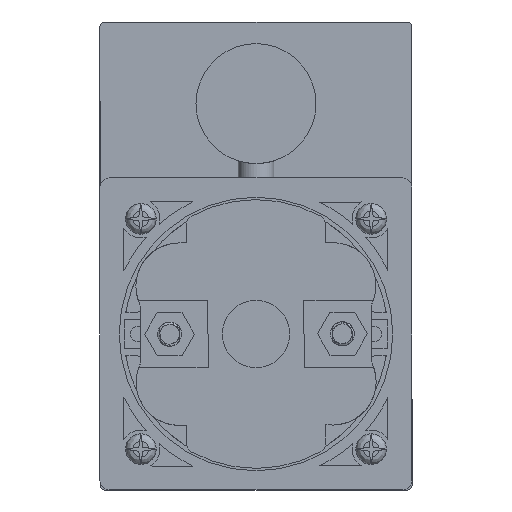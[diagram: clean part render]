
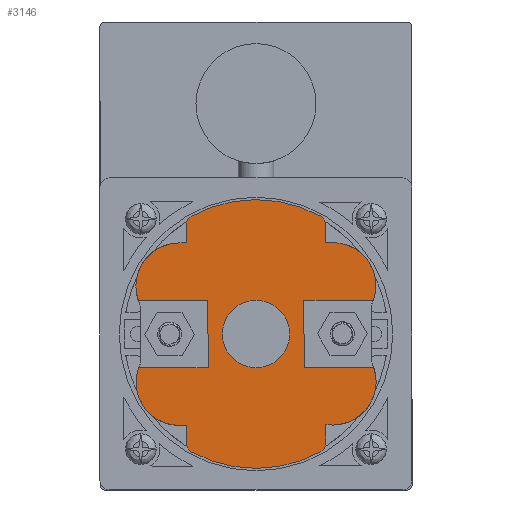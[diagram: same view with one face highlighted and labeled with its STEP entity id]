
A CAD part, front view. The second image highlights one B-rep face of the part: STEP entity #3146.
In plain terms, the highlighted planar face has unit normal (0, -1, 0).
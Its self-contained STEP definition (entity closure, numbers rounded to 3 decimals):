
#3146=ADVANCED_FACE('',(#6920,#6921),#3832,.F.);
#3832=PLANE('',#20545);
#4901=LINE('',#86773,#6233);
#4904=LINE('',#86779,#6236);
#4908=LINE('',#86791,#6240);
#4911=LINE('',#86799,#6243);
#4913=LINE('',#86803,#6245);
#4915=LINE('',#86807,#6247);
#4917=LINE('',#86823,#6249);
#4921=LINE('',#86844,#6253);
#4923=LINE('',#86861,#6255);
#4925=LINE('',#86865,#6257);
#5014=LINE('',#87119,#6346);
#5019=LINE('',#87131,#6351);
#5054=LINE('',#87245,#6386);
#5058=LINE('',#87267,#6390);
#6233=VECTOR('',#24204,1.);
#6236=VECTOR('',#24209,1.);
#6240=VECTOR('',#24221,1.);
#6243=VECTOR('',#24230,1.);
#6245=VECTOR('',#24234,1.);
#6247=VECTOR('',#24238,1.);
#6249=VECTOR('',#24246,1.);
#6253=VECTOR('',#24256,1.);
#6255=VECTOR('',#24266,1.);
#6257=VECTOR('',#24270,1.);
#6346=VECTOR('',#24511,1.);
#6351=VECTOR('',#24526,1.);
#6386=VECTOR('',#24627,1.);
#6390=VECTOR('',#24653,1.);
#6920=FACE_BOUND('',#7977,.T.);
#6921=FACE_BOUND('',#7978,.T.);
#7977=EDGE_LOOP('',(#12640,#12641,#12642,#12643,#12644,#12645,#12646,#12647,
#12648,#12649,#12650,#12651,#12652,#12653,#12654,#12655,#12656,#12657,#12658,
#12659,#12660,#12661,#12662,#12663,#12664));
#7978=EDGE_LOOP('',(#12665));
#12640=ORIENTED_EDGE('',*,*,#17751,.F.);
#12641=ORIENTED_EDGE('',*,*,#17749,.T.);
#12642=ORIENTED_EDGE('',*,*,#17745,.T.);
#12643=ORIENTED_EDGE('',*,*,#17876,.T.);
#12644=ORIENTED_EDGE('',*,*,#17944,.T.);
#12645=ORIENTED_EDGE('',*,*,#17945,.T.);
#12646=ORIENTED_EDGE('',*,*,#17946,.T.);
#12647=ORIENTED_EDGE('',*,*,#17884,.T.);
#12648=ORIENTED_EDGE('',*,*,#17741,.T.);
#12649=ORIENTED_EDGE('',*,*,#17738,.T.);
#12650=ORIENTED_EDGE('',*,*,#17735,.T.);
#12651=ORIENTED_EDGE('',*,*,#17733,.F.);
#12652=ORIENTED_EDGE('',*,*,#17731,.F.);
#12653=ORIENTED_EDGE('',*,*,#17729,.F.);
#12654=ORIENTED_EDGE('',*,*,#17727,.T.);
#12655=ORIENTED_EDGE('',*,*,#17725,.T.);
#12656=ORIENTED_EDGE('',*,*,#17937,.T.);
#12657=ORIENTED_EDGE('',*,*,#17947,.T.);
#12658=ORIENTED_EDGE('',*,*,#17948,.T.);
#12659=ORIENTED_EDGE('',*,*,#17949,.T.);
#12660=ORIENTED_EDGE('',*,*,#17950,.T.);
#12661=ORIENTED_EDGE('',*,*,#17753,.T.);
#12662=ORIENTED_EDGE('',*,*,#17722,.T.);
#12663=ORIENTED_EDGE('',*,*,#17719,.F.);
#12664=ORIENTED_EDGE('',*,*,#17716,.F.);
#12665=ORIENTED_EDGE('',*,*,#17715,.F.);
#15193=VERTEX_POINT('',#86771);
#15194=VERTEX_POINT('',#86774);
#15195=VERTEX_POINT('',#86775);
#15196=VERTEX_POINT('',#86780);
#15198=VERTEX_POINT('',#86786);
#15199=VERTEX_POINT('',#86790);
#15200=VERTEX_POINT('',#86792);
#15201=VERTEX_POINT('',#86796);
#15202=VERTEX_POINT('',#86800);
#15203=VERTEX_POINT('',#86804);
#15204=VERTEX_POINT('',#86808);
#15205=VERTEX_POINT('',#86812);
#15207=VERTEX_POINT('',#86824);
#15209=VERTEX_POINT('',#86836);
#15212=VERTEX_POINT('',#86843);
#15213=VERTEX_POINT('',#86845);
#15215=VERTEX_POINT('',#86858);
#15217=VERTEX_POINT('',#86866);
#15296=VERTEX_POINT('',#87117);
#15300=VERTEX_POINT('',#87132);
#15340=VERTEX_POINT('',#87243);
#15344=VERTEX_POINT('',#87257);
#15345=VERTEX_POINT('',#87259);
#15346=VERTEX_POINT('',#87262);
#15347=VERTEX_POINT('',#87264);
#15348=VERTEX_POINT('',#87266);
#17715=EDGE_CURVE('',#15193,#15193,#18985,.T.);
#17716=EDGE_CURVE('',#15194,#15195,#4901,.T.);
#17719=EDGE_CURVE('',#15195,#15196,#4904,.T.);
#17722=EDGE_CURVE('',#15198,#15196,#18987,.T.);
#17725=EDGE_CURVE('',#15200,#15199,#4908,.T.);
#17727=EDGE_CURVE('',#15201,#15200,#18988,.T.);
#17729=EDGE_CURVE('',#15201,#15202,#4911,.T.);
#17731=EDGE_CURVE('',#15202,#15203,#4913,.T.);
#17733=EDGE_CURVE('',#15203,#15204,#4915,.T.);
#17735=EDGE_CURVE('',#15205,#15204,#18989,.T.);
#17738=EDGE_CURVE('',#15207,#15205,#4917,.T.);
#17741=EDGE_CURVE('',#15209,#15207,#18990,.T.);
#17745=EDGE_CURVE('',#15213,#15212,#4921,.T.);
#17749=EDGE_CURVE('',#15215,#15213,#18992,.T.);
#17751=EDGE_CURVE('',#15215,#15194,#4923,.T.);
#17753=EDGE_CURVE('',#15217,#15198,#4925,.T.);
#17876=EDGE_CURVE('',#15212,#15296,#5014,.T.);
#17884=EDGE_CURVE('',#15300,#15209,#5019,.T.);
#17937=EDGE_CURVE('',#15199,#15340,#5054,.T.);
#17944=EDGE_CURVE('',#15296,#15344,#19048,.T.);
#17945=EDGE_CURVE('',#15344,#15345,#19049,.T.);
#17946=EDGE_CURVE('',#15345,#15300,#19050,.T.);
#17947=EDGE_CURVE('',#15340,#15346,#19051,.T.);
#17948=EDGE_CURVE('',#15346,#15347,#19052,.T.);
#17949=EDGE_CURVE('',#15347,#15348,#19053,.T.);
#17950=EDGE_CURVE('',#15348,#15217,#5058,.T.);
#18985=CIRCLE('',#20397,7.);
#18987=CIRCLE('',#20402,9.);
#18988=CIRCLE('',#20405,9.);
#18989=CIRCLE('',#20410,9.);
#18990=CIRCLE('',#20413,8.96);
#18992=CIRCLE('',#20417,9.);
#19048=CIRCLE('',#20539,2.);
#19049=CIRCLE('',#20540,28.);
#19050=CIRCLE('',#20541,2.);
#19051=CIRCLE('',#20542,2.);
#19052=CIRCLE('',#20543,28.);
#19053=CIRCLE('',#20544,2.);
#20397=AXIS2_PLACEMENT_3D('',#86770,#24200,#24201);
#20402=AXIS2_PLACEMENT_3D('',#86785,#24215,#24216);
#20405=AXIS2_PLACEMENT_3D('',#86795,#24225,#24226);
#20410=AXIS2_PLACEMENT_3D('',#86811,#24242,#24243);
#20413=AXIS2_PLACEMENT_3D('',#86835,#24249,#24250);
#20417=AXIS2_PLACEMENT_3D('',#86857,#24261,#24262);
#20539=AXIS2_PLACEMENT_3D('',#87256,#24641,#24642);
#20540=AXIS2_PLACEMENT_3D('',#87258,#24643,#24644);
#20541=AXIS2_PLACEMENT_3D('',#87260,#24645,#24646);
#20542=AXIS2_PLACEMENT_3D('',#87261,#24647,#24648);
#20543=AXIS2_PLACEMENT_3D('',#87263,#24649,#24650);
#20544=AXIS2_PLACEMENT_3D('',#87265,#24651,#24652);
#20545=AXIS2_PLACEMENT_3D('',#87268,#24654,#24655);
#24200=DIRECTION('',(0.,-1.,0.));
#24201=DIRECTION('',(-1.,0.,-0.003));
#24204=DIRECTION('',(-0.003,0.,1.));
#24209=DIRECTION('',(-1.,0.,-0.003));
#24215=DIRECTION('',(0.,-1.,0.));
#24216=DIRECTION('',(-1.,0.,-0.003));
#24221=DIRECTION('',(-1.,0.,-0.003));
#24225=DIRECTION('',(0.,-1.,0.));
#24226=DIRECTION('',(1.,0.,0.003));
#24230=DIRECTION('',(-1.,0.,-0.003));
#24234=DIRECTION('',(0.003,0.,-1.));
#24238=DIRECTION('',(1.,0.,0.003));
#24242=DIRECTION('',(0.,-1.,0.));
#24243=DIRECTION('',(0.,0.,-1.));
#24246=DIRECTION('',(1.,0.,0.003));
#24249=DIRECTION('',(0.,-1.,0.));
#24250=DIRECTION('',(0.,0.,-1.));
#24256=DIRECTION('',(1.,0.,0.003));
#24261=DIRECTION('',(0.,-1.,0.));
#24262=DIRECTION('',(-0.89,0.,0.456));
#24266=DIRECTION('',(1.,0.,0.003));
#24270=DIRECTION('',(-1.,0.,-0.003));
#24511=DIRECTION('',(0.003,0.,-1.));
#24526=DIRECTION('',(-0.003,0.,1.));
#24627=DIRECTION('',(-0.003,0.,1.));
#24641=DIRECTION('',(0.,-1.,0.));
#24642=DIRECTION('',(1.,0.,0.003));
#24643=DIRECTION('',(0.,-1.,0.));
#24644=DIRECTION('',(1.,0.,0.003));
#24645=DIRECTION('',(0.,-1.,0.));
#24646=DIRECTION('',(1.,0.,0.003));
#24647=DIRECTION('',(0.,-1.,0.));
#24648=DIRECTION('',(1.,0.,0.003));
#24649=DIRECTION('',(0.,-1.,0.));
#24650=DIRECTION('',(1.,0.,0.003));
#24651=DIRECTION('',(0.,-1.,0.));
#24652=DIRECTION('',(1.,0.,0.003));
#24653=DIRECTION('',(0.003,0.,-1.));
#24654=DIRECTION('',(0.,1.,0.));
#24655=DIRECTION('',(0.,0.,1.));
#86770=CARTESIAN_POINT('',(0.,-67.6,0.));
#86771=CARTESIAN_POINT('',(-7.,-67.6,-0.018));
#86773=CARTESIAN_POINT('',(-9.982,-67.6,-7.026));
#86774=CARTESIAN_POINT('',(-9.982,-67.6,-7.026));
#86775=CARTESIAN_POINT('',(-10.018,-67.6,6.974));
#86779=CARTESIAN_POINT('',(-10.018,-67.6,6.974));
#86780=CARTESIAN_POINT('',(-24.503,-67.6,6.937));
#86785=CARTESIAN_POINT('',(-16.026,-67.6,9.959));
#86786=CARTESIAN_POINT('',(-16.049,-67.6,18.959));
#86790=CARTESIAN_POINT('',(14.451,-67.6,19.037));
#86791=CARTESIAN_POINT('',(15.951,-67.6,19.041));
#86792=CARTESIAN_POINT('',(15.951,-67.6,19.041));
#86795=CARTESIAN_POINT('',(15.974,-67.6,10.041));
#86796=CARTESIAN_POINT('',(24.467,-67.6,7.063));
#86799=CARTESIAN_POINT('',(34.164,-67.6,7.088));
#86800=CARTESIAN_POINT('',(9.982,-67.6,7.026));
#86803=CARTESIAN_POINT('',(9.982,-67.6,7.026));
#86804=CARTESIAN_POINT('',(10.018,-67.6,-6.974));
#86807=CARTESIAN_POINT('',(10.018,-67.6,-6.974));
#86808=CARTESIAN_POINT('',(24.503,-67.6,-6.937));
#86811=CARTESIAN_POINT('',(16.026,-67.6,-9.959));
#86812=CARTESIAN_POINT('',(16.119,-67.6,-18.958));
#86823=CARTESIAN_POINT('',(23.752,-67.6,-18.938));
#86824=CARTESIAN_POINT('',(15.978,-67.6,-18.959));
#86835=CARTESIAN_POINT('',(16.02,-67.6,-9.999));
#86836=CARTESIAN_POINT('',(14.548,-67.6,-18.837));
#86843=CARTESIAN_POINT('',(-14.451,-67.6,-19.037));
#86844=CARTESIAN_POINT('',(23.753,-67.6,-18.934));
#86845=CARTESIAN_POINT('',(-15.951,-67.6,-19.041));
#86857=CARTESIAN_POINT('',(-15.974,-67.6,-10.041));
#86858=CARTESIAN_POINT('',(-24.468,-67.6,-7.063));
#86861=CARTESIAN_POINT('',(-34.164,-67.6,-7.088));
#86865=CARTESIAN_POINT('',(-14.549,-67.6,18.963));
#86866=CARTESIAN_POINT('',(-14.549,-67.6,18.963));
#87117=CARTESIAN_POINT('',(-14.441,-67.6,-22.835));
#87119=CARTESIAN_POINT('',(-14.451,-67.6,-19.037));
#87131=CARTESIAN_POINT('',(14.558,-67.6,-22.761));
#87132=CARTESIAN_POINT('',(14.558,-67.6,-22.761));
#87243=CARTESIAN_POINT('',(14.441,-67.6,22.835));
#87245=CARTESIAN_POINT('',(14.451,-67.6,19.037));
#87256=CARTESIAN_POINT('',(-12.441,-67.6,-22.83));
#87257=CARTESIAN_POINT('',(-13.398,-67.6,-24.586));
#87258=CARTESIAN_POINT('',(0.,-67.6,0.));
#87259=CARTESIAN_POINT('',(13.525,-67.6,-24.517));
#87260=CARTESIAN_POINT('',(12.558,-67.6,-22.766));
#87261=CARTESIAN_POINT('',(12.441,-67.6,22.83));
#87262=CARTESIAN_POINT('',(13.398,-67.6,24.586));
#87263=CARTESIAN_POINT('',(0.,-67.6,0.));
#87264=CARTESIAN_POINT('',(-13.525,-67.6,24.517));
#87265=CARTESIAN_POINT('',(-12.558,-67.6,22.766));
#87266=CARTESIAN_POINT('',(-14.558,-67.6,22.761));
#87267=CARTESIAN_POINT('',(-14.558,-67.6,22.761));
#87268=CARTESIAN_POINT('',(23.741,-67.6,-14.593));
